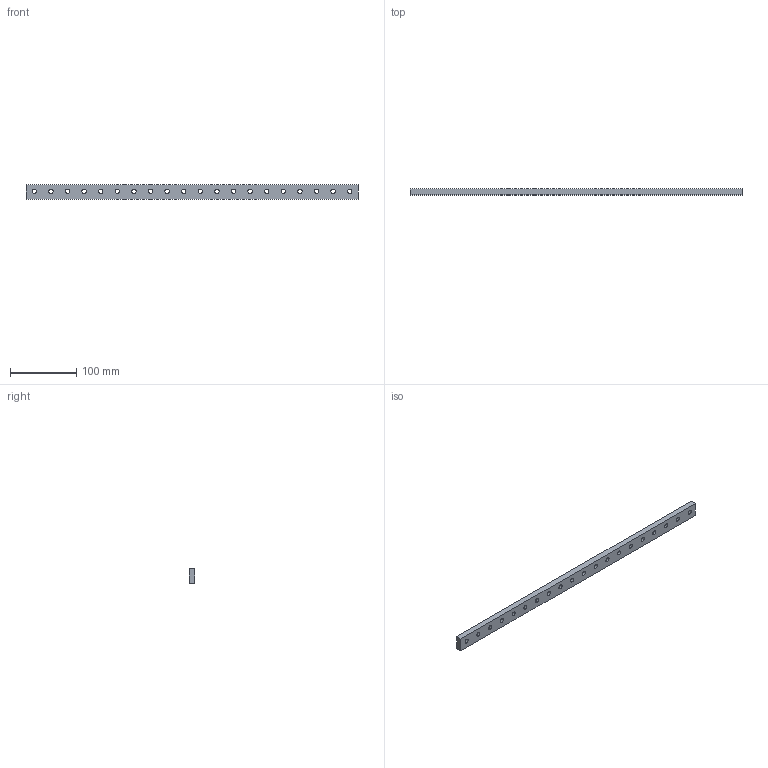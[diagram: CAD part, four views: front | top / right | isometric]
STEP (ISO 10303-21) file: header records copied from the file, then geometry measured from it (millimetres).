
FILE_DESCRIPTION(('CATIA V5 STEP Exchange'),'2;1');
FILE_NAME('C:\Users\Utente\Desktop\IO LAVORO\3D X SITO CF\X SITO\PLASTICA\CF-GP\CF-GP-09-500.stp','2021-02-21T16:05:06+00:00',('none'),('none'),'CATIA Version 5 Release 20 GA (IN-10)','CATIA V5 STEP AP203','none');
FILE_SCHEMA(('CONFIG_CONTROL_DESIGN'));
Length unit declared in the file: millimetre
Products named in the file (1): CF-GP-09-500
Bounding box: 500 x 9 x 22 mm (x, y, z)
Volume: 87124.7 mm3; surface area: 35059.1 mm2
Topology: 1 solids, 1 shells, 106 faces, 412 edges, 328 vertices
Faces by surface type: cylinder 80, plane 26
Entity records: 6478 total; most frequent: CARTESIAN_POINT 3167, ORIENTED_EDGE 824, DIRECTION 424, EDGE_CURVE 412, VERTEX_POINT 328, AXIS2_PLACEMENT_3D 227, B_SPLINE_CURVE_WITH_KNOTS 200, EDGE_LOOP 166
